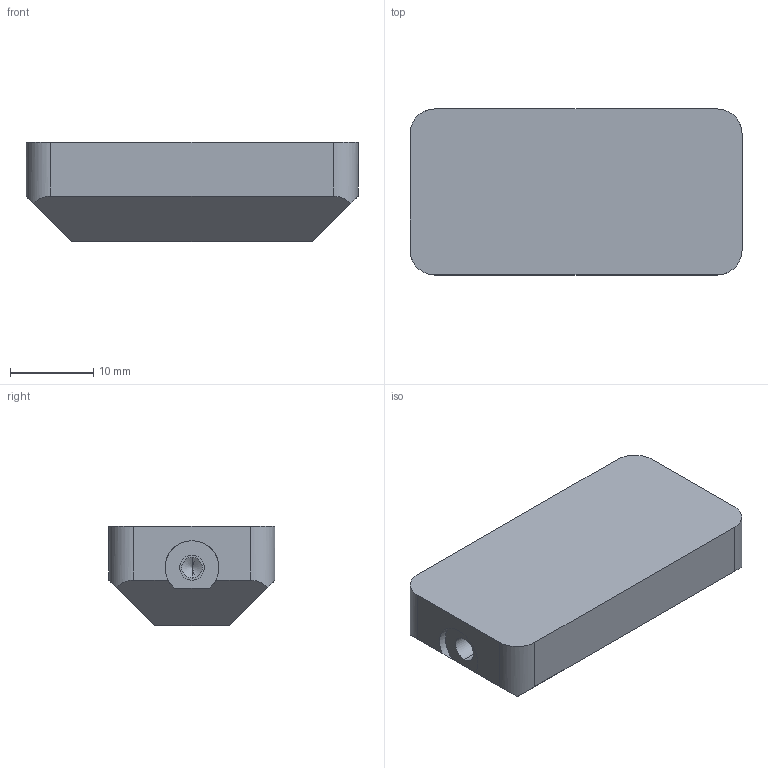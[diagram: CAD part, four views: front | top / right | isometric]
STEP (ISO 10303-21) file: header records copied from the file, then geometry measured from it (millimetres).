
FILE_DESCRIPTION (( 'STEP AP203' ), '1' );
FILE_NAME ('0003484 EZ-0072 20x40.STEP', '2022-01-31T15:59:31', ( '' ), ( '' ), 'SwSTEP 2.0', 'SolidWorks 2021', '' );
FILE_SCHEMA (( 'CONFIG_CONTROL_DESIGN' ));
Length unit declared in the file: millimetre
Products named in the file (1): 0003484 EZ-0072 20x40
Bounding box: 40 x 20 x 12 mm (x, y, z)
Volume: 7675.7 mm3; surface area: 3081.1 mm2
Topology: 4 solids, 4 shells, 105 faces, 241 edges, 146 vertices
Faces by surface type: cylinder 38, plane 37, cone 20, torus 8, sphere 2
Entity records: 2962 total; most frequent: DIRECTION 535, CARTESIAN_POINT 511, ORIENTED_EDGE 458, EDGE_CURVE 229, AXIS2_PLACEMENT_3D 210, VERTEX_POINT 146, EDGE_LOOP 121, LINE 115
